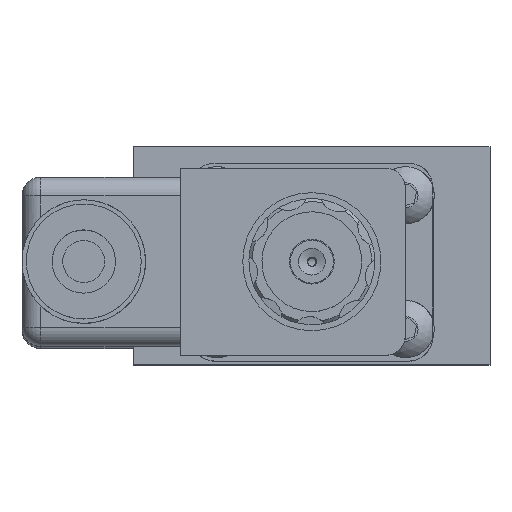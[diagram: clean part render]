
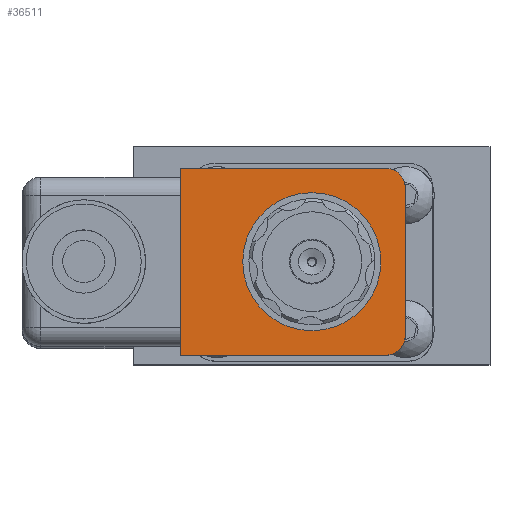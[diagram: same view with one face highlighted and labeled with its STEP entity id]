
A CAD part, top view. The second image highlights one B-rep face of the part: STEP entity #36511.
In plain terms, the highlighted planar face has unit normal (0, 0, 1).
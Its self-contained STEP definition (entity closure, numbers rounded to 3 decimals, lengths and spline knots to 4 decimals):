
#2487=LINE('',#65921,#4844);
#2494=LINE('',#65946,#4851);
#2495=LINE('',#65949,#4852);
#2496=LINE('',#65950,#4853);
#4844=VECTOR('',#50393,3.);
#4851=VECTOR('',#50412,2.365);
#4852=VECTOR('',#50415,3.2893);
#4853=VECTOR('',#50416,3.2893);
#6840=PLANE('',#40401);
#7436=FACE_BOUND('',#12280,.T.);
#9557=FACE_OUTER_BOUND('',#12279,.T.);
#12279=EDGE_LOOP('',(#31434,#31435,#31436,#31437,#31438,#31439));
#12280=EDGE_LOOP('',(#31440));
#14158=CIRCLE('',#40402,0.3175);
#14159=CIRCLE('',#40403,0.3175);
#14160=CIRCLE('',#40404,1.1075);
#17317=VERTEX_POINT('',#65917);
#17319=VERTEX_POINT('',#65920);
#17329=VERTEX_POINT('',#65942);
#17330=VERTEX_POINT('',#65943);
#17331=VERTEX_POINT('',#65945);
#17332=VERTEX_POINT('',#65947);
#17333=VERTEX_POINT('',#65951);
#22036=EDGE_CURVE('',#17319,#17317,#2487,.T.);
#22047=EDGE_CURVE('',#17329,#17330,#14158,.T.);
#22048=EDGE_CURVE('',#17331,#17329,#2494,.T.);
#22049=EDGE_CURVE('',#17332,#17331,#14159,.T.);
#22050=EDGE_CURVE('',#17332,#17319,#2495,.T.);
#22051=EDGE_CURVE('',#17330,#17317,#2496,.T.);
#22052=EDGE_CURVE('',#17333,#17333,#14160,.T.);
#31434=ORIENTED_EDGE('',*,*,#22047,.F.);
#31435=ORIENTED_EDGE('',*,*,#22048,.F.);
#31436=ORIENTED_EDGE('',*,*,#22049,.F.);
#31437=ORIENTED_EDGE('',*,*,#22050,.T.);
#31438=ORIENTED_EDGE('',*,*,#22036,.T.);
#31439=ORIENTED_EDGE('',*,*,#22051,.F.);
#31440=ORIENTED_EDGE('',*,*,#22052,.T.);
#36511=ADVANCED_FACE('',(#9557,#7436),#6840,.T.);
#40401=AXIS2_PLACEMENT_3D('',#65941,#50408,#50409);
#40402=AXIS2_PLACEMENT_3D('',#65944,#50410,#50411);
#40403=AXIS2_PLACEMENT_3D('',#65948,#50413,#50414);
#40404=AXIS2_PLACEMENT_3D('',#65952,#50417,#50418);
#50393=DIRECTION('',(0.,-1.,0.));
#50408=DIRECTION('center_axis',(0.,0.,
1.));
#50409=DIRECTION('ref_axis',(-1.,0.,0.));
#50410=DIRECTION('center_axis',(0.,0.,
-1.));
#50411=DIRECTION('ref_axis',(0.707,-0.707,0.));
#50412=DIRECTION('',(0.,-1.,0.));
#50413=DIRECTION('center_axis',(0.,0.,
-1.));
#50414=DIRECTION('ref_axis',(0.707,0.707,0.));
#50415=DIRECTION('',(-1.,0.,0.));
#50416=DIRECTION('',(-1.,0.,0.));
#50417=DIRECTION('center_axis',(0.,0.,
-1.));
#50418=DIRECTION('ref_axis',(1.,0.,0.));
#65917=CARTESIAN_POINT('',(-2.1082,-1.5,11.0513));
#65920=CARTESIAN_POINT('',(-2.1082,1.5,11.0513));
#65921=CARTESIAN_POINT('',(-2.1082,1.5,11.0513));
#65941=CARTESIAN_POINT('Origin',(1.4986,1.5,11.0513));
#65942=CARTESIAN_POINT('',(1.4986,-1.1825,11.0513));
#65943=CARTESIAN_POINT('',(1.1811,-1.5,11.0513));
#65944=CARTESIAN_POINT('Origin',(1.1811,-1.1825,11.0513));
#65945=CARTESIAN_POINT('',(1.4986,1.1825,11.0513));
#65946=CARTESIAN_POINT('',(1.4986,1.5,11.0513));
#65947=CARTESIAN_POINT('',(1.1811,1.5,11.0513));
#65948=CARTESIAN_POINT('Origin',(1.1811,1.1825,11.0513));
#65949=CARTESIAN_POINT('',(1.4986,1.5,11.0513));
#65950=CARTESIAN_POINT('',(1.4986,-1.5,11.0513));
#65951=CARTESIAN_POINT('',(-1.1075,0.,11.0513));
#65952=CARTESIAN_POINT('Origin',(0.,0.,
11.0513));
